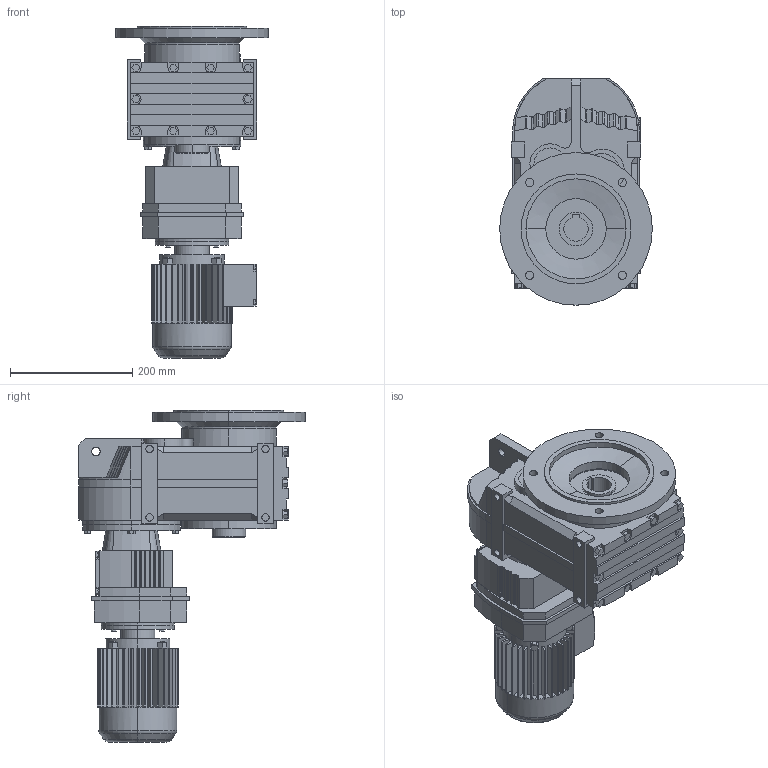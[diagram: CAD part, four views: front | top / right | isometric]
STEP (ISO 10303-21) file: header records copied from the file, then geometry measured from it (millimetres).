
FILE_DESCRIPTION(('Open CASCADE Model'),'2;1');
FILE_NAME('Open CASCADE Shape Model','2021-07-24T11:20:53',('Author'),( 'Open CASCADE'),'Open CASCADE STEP processor 6.3','Open CASCADE 6.3' ,'Unknown');
FILE_SCHEMA(('AUTOMOTIVE_DESIGN_CC2 { 1 2 10303 214 -1 1 5 4 }'));
Length unit declared in the file: millimetre
Products named in the file (6): 1_FAF67R37DR63; FAZ27‵157_67.step; 萇儂_120-DR63-191-246-132-105.step; R_67_37.step; す瑩諾陑粣F_67.step; 楊擘F_67.step
Assembly tree (5 placements, depth 2):
  1_FAF67R37DR63
    FAZ27‵157_67.step
    萇儂_120-DR63-191-246-132-105.step
    R_67_37.step
    す瑩諾陑粣F_67.step
    楊擘F_67.step
Bounding box: 250 x 371 x 544 mm (x, y, z)
Volume: 14214119.5 mm3; surface area: 871889.6 mm2
Topology: 5 solids, 5 shells, 1028 faces, 2715 edges, 1776 vertices
Faces by surface type: plane 755, cylinder 239, bspline 16, cone 14, torus 4
Entity records: 68704 total; most frequent: CARTESIAN_POINT 16102, DIRECTION 9280, LINE 5499, VECTOR 5499, ORIENTED_EDGE 5430, PCURVE 5430, DEFINITIONAL_REPRESENTATION 5430, EDGE_CURVE 2715
